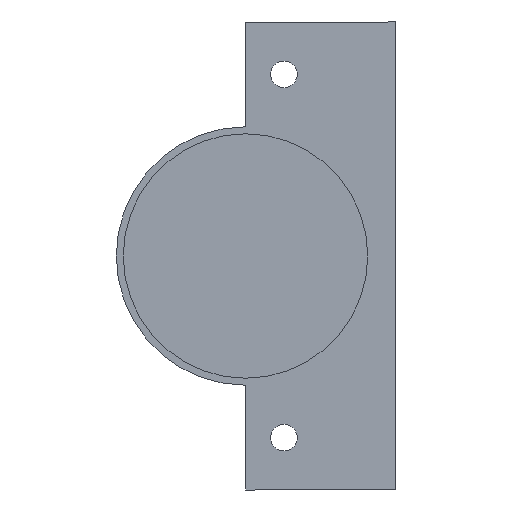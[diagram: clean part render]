
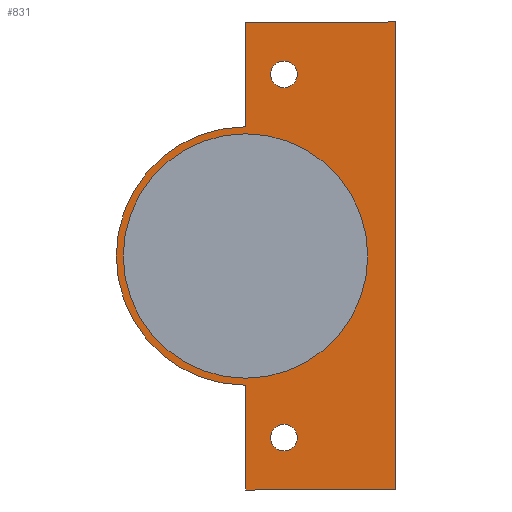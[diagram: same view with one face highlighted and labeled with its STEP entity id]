
A CAD part, front view. The second image highlights one B-rep face of the part: STEP entity #831.
In plain terms, the highlighted planar face has unit normal (0, -1, 0).
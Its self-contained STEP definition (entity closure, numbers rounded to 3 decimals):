
#10 = VERTEX_POINT ( 'NONE', #1198 ) ;
#12 = DIRECTION ( 'NONE',  ( -1., 0., 0. ) ) ;
#21 = CIRCLE ( 'NONE', #545, 1.9 ) ;
#42 = VERTEX_POINT ( 'NONE', #551 ) ;
#130 = ORIENTED_EDGE ( 'NONE', *, *, #247, .F. ) ;
#135 = FACE_BOUND ( 'NONE', #610, .T. ) ;
#144 = CARTESIAN_POINT ( 'NONE',  ( 11., 0., -26. ) ) ;
#152 = DIRECTION ( 'NONE',  ( 0., 1., 0. ) ) ;
#179 = ORIENTED_EDGE ( 'NONE', *, *, #1210, .T. ) ;
#206 = EDGE_CURVE ( 'NONE', #719, #42, #666, .T. ) ;
#247 = EDGE_CURVE ( 'NONE', #1323, #719, #681, .T. ) ;
#255 = CIRCLE ( 'NONE', #668, 1.9 ) ;
#257 = EDGE_CURVE ( 'NONE', #744, #1323, #630, .T. ) ;
#261 = CARTESIAN_POINT ( 'NONE',  ( 5.5, 0., 0. ) ) ;
#271 = VERTEX_POINT ( 'NONE', #1464 ) ;
#275 = EDGE_CURVE ( 'NONE', #1432, #1139, #1318, .T. ) ;
#280 = ORIENTED_EDGE ( 'NONE', *, *, #206, .F. ) ;
#281 = CARTESIAN_POINT ( 'NONE',  ( 5.5, 0., 18.5 ) ) ;
#291 = EDGE_CURVE ( 'NONE', #42, #1432, #1486, .T. ) ;
#293 = CARTESIAN_POINT ( 'NONE',  ( 11., 0., -26. ) ) ;
#301 = CARTESIAN_POINT ( 'NONE',  ( -12., 0., 0. ) ) ;
#315 = VECTOR ( 'NONE', #1290, 1000. ) ;
#320 = CARTESIAN_POINT ( 'NONE',  ( 12.9, 0., 26. ) ) ;
#411 = DIRECTION ( 'NONE',  ( -1., 0., 0. ) ) ;
#449 = FACE_BOUND ( 'NONE', #1263, .T. ) ;
#450 = EDGE_CURVE ( 'NONE', #1139, #744, #1463, .T. ) ;
#482 = EDGE_CURVE ( 'NONE', #10, #751, #255, .T. ) ;
#490 = CIRCLE ( 'NONE', #655, 17.5 ) ;
#491 = CARTESIAN_POINT ( 'NONE',  ( 5.5, 0., 33.5 ) ) ;
#496 = DIRECTION ( 'NONE',  ( 0., -1., 0. ) ) ;
#505 = ORIENTED_EDGE ( 'NONE', *, *, #275, .F. ) ;
#545 = AXIS2_PLACEMENT_3D ( 'NONE', #550, #1189, #411 ) ;
#550 = CARTESIAN_POINT ( 'NONE',  ( 11., 0., 26. ) ) ;
#551 = CARTESIAN_POINT ( 'NONE',  ( 5.5, 0., -18.5 ) ) ;
#560 = CARTESIAN_POINT ( 'NONE',  ( 27., 0., -33.5 ) ) ;
#566 = DIRECTION ( 'NONE',  ( -1., 0., 0. ) ) ;
#579 = AXIS2_PLACEMENT_3D ( 'NONE', #144, #842, #12 ) ;
#586 = DIRECTION ( 'NONE',  ( -1., 0., 0. ) ) ;
#602 = AXIS2_PLACEMENT_3D ( 'NONE', #261, #496, #720 ) ;
#606 = ORIENTED_EDGE ( 'NONE', *, *, #1163, .F. ) ;
#610 = EDGE_LOOP ( 'NONE', ( #179, #1387 ) ) ;
#618 = CARTESIAN_POINT ( 'NONE',  ( 9.1, 0., -26. ) ) ;
#622 = CARTESIAN_POINT ( 'NONE',  ( 5.5, 0., 0. ) ) ;
#630 = LINE ( 'NONE', #1438, #730 ) ;
#631 = AXIS2_PLACEMENT_3D ( 'NONE', #799, #792, #780 ) ;
#641 = AXIS2_PLACEMENT_3D ( 'NONE', #1469, #1356, #1343 ) ;
#645 = ORIENTED_EDGE ( 'NONE', *, *, #1280, .T. ) ;
#655 = AXIS2_PLACEMENT_3D ( 'NONE', #1096, #1066, #1062 ) ;
#666 = LINE ( 'NONE', #1300, #1070 ) ;
#668 = AXIS2_PLACEMENT_3D ( 'NONE', #293, #1064, #566 ) ;
#681 = LINE ( 'NONE', #560, #746 ) ;
#695 = AXIS2_PLACEMENT_3D ( 'NONE', #622, #152, #1407 ) ;
#710 = ORIENTED_EDGE ( 'NONE', *, *, #1018, .F. ) ;
#719 = VERTEX_POINT ( 'NONE', #1233 ) ;
#720 = DIRECTION ( 'NONE',  ( -1., 0., 0. ) ) ;
#730 = VECTOR ( 'NONE', #999, 1000. ) ;
#744 = VERTEX_POINT ( 'NONE', #1474 ) ;
#746 = VECTOR ( 'NONE', #586, 1000. ) ;
#751 = VERTEX_POINT ( 'NONE', #618 ) ;
#780 = DIRECTION ( 'NONE',  ( -1., 0., 0. ) ) ;
#789 = CARTESIAN_POINT ( 'NONE',  ( 5.5, 0., 18.5 ) ) ;
#790 = DIRECTION ( 'NONE',  ( 1., 0., 0. ) ) ;
#792 = DIRECTION ( 'NONE',  ( 0., 1., 0. ) ) ;
#799 = CARTESIAN_POINT ( 'NONE',  ( 11., 0., 26. ) ) ;
#831 = ADVANCED_FACE ( 'NONE', ( #1453, #939, #135, #449 ), #1398, .F. ) ;
#842 = DIRECTION ( 'NONE',  ( 0., 1., 0. ) ) ;
#912 = VECTOR ( 'NONE', #790, 1000. ) ;
#939 = FACE_BOUND ( 'NONE', #972, .T. ) ;
#941 = CARTESIAN_POINT ( 'NONE',  ( 23., 0., 0. ) ) ;
#961 = CARTESIAN_POINT ( 'NONE',  ( 5.5, 0., 33.5 ) ) ;
#972 = EDGE_LOOP ( 'NONE', ( #645, #1011 ) ) ;
#975 = EDGE_LOOP ( 'NONE', ( #130, #1195, #1067, #505, #1123, #280 ) ) ;
#999 = DIRECTION ( 'NONE',  ( 0., 0., -1. ) ) ;
#1011 = ORIENTED_EDGE ( 'NONE', *, *, #1044, .T. ) ;
#1018 = EDGE_CURVE ( 'NONE', #1250, #1316, #490, .T. ) ;
#1044 = EDGE_CURVE ( 'NONE', #1252, #271, #1251, .T. ) ;
#1062 = DIRECTION ( 'NONE',  ( -1., 0., 0. ) ) ;
#1064 = DIRECTION ( 'NONE',  ( 0., 1., 0. ) ) ;
#1066 = DIRECTION ( 'NONE',  ( 0., -1., 0. ) ) ;
#1067 = ORIENTED_EDGE ( 'NONE', *, *, #450, .F. ) ;
#1070 = VECTOR ( 'NONE', #1324, 1000. ) ;
#1096 = CARTESIAN_POINT ( 'NONE',  ( 5.5, 0., 0. ) ) ;
#1106 = CIRCLE ( 'NONE', #602, 17.5 ) ;
#1123 = ORIENTED_EDGE ( 'NONE', *, *, #291, .F. ) ;
#1139 = VERTEX_POINT ( 'NONE', #491 ) ;
#1163 = EDGE_CURVE ( 'NONE', #1316, #1250, #1106, .T. ) ;
#1189 = DIRECTION ( 'NONE',  ( 0., 1., 0. ) ) ;
#1195 = ORIENTED_EDGE ( 'NONE', *, *, #257, .F. ) ;
#1198 = CARTESIAN_POINT ( 'NONE',  ( 12.9, 0., -26. ) ) ;
#1210 = EDGE_CURVE ( 'NONE', #751, #10, #1457, .T. ) ;
#1233 = CARTESIAN_POINT ( 'NONE',  ( 5.5, 0., -33.5 ) ) ;
#1250 = VERTEX_POINT ( 'NONE', #941 ) ;
#1251 = CIRCLE ( 'NONE', #631, 1.9 ) ;
#1252 = VERTEX_POINT ( 'NONE', #320 ) ;
#1263 = EDGE_LOOP ( 'NONE', ( #606, #710 ) ) ;
#1280 = EDGE_CURVE ( 'NONE', #271, #1252, #21, .T. ) ;
#1290 = DIRECTION ( 'NONE',  ( 0., 0., 1. ) ) ;
#1300 = CARTESIAN_POINT ( 'NONE',  ( 5.5, 0., -33.5 ) ) ;
#1312 = CARTESIAN_POINT ( 'NONE',  ( 27., 0., -33.5 ) ) ;
#1316 = VERTEX_POINT ( 'NONE', #301 ) ;
#1318 = LINE ( 'NONE', #281, #315 ) ;
#1323 = VERTEX_POINT ( 'NONE', #1312 ) ;
#1324 = DIRECTION ( 'NONE',  ( 0., 0., 1. ) ) ;
#1343 = DIRECTION ( 'NONE',  ( -1., 0., 0. ) ) ;
#1356 = DIRECTION ( 'NONE',  ( 0., 1., 0. ) ) ;
#1387 = ORIENTED_EDGE ( 'NONE', *, *, #482, .T. ) ;
#1398 = PLANE ( 'NONE',  #641 ) ;
#1407 = DIRECTION ( 'NONE',  ( -1., 0., 0. ) ) ;
#1432 = VERTEX_POINT ( 'NONE', #789 ) ;
#1438 = CARTESIAN_POINT ( 'NONE',  ( 27., 0., 33.5 ) ) ;
#1453 = FACE_OUTER_BOUND ( 'NONE', #975, .T. ) ;
#1457 = CIRCLE ( 'NONE', #579, 1.9 ) ;
#1463 = LINE ( 'NONE', #961, #912 ) ;
#1464 = CARTESIAN_POINT ( 'NONE',  ( 9.1, 0., 26. ) ) ;
#1469 = CARTESIAN_POINT ( 'NONE',  ( 5.5, 0., 0. ) ) ;
#1474 = CARTESIAN_POINT ( 'NONE',  ( 27., 0., 33.5 ) ) ;
#1486 = CIRCLE ( 'NONE', #695, 18.5 ) ;
